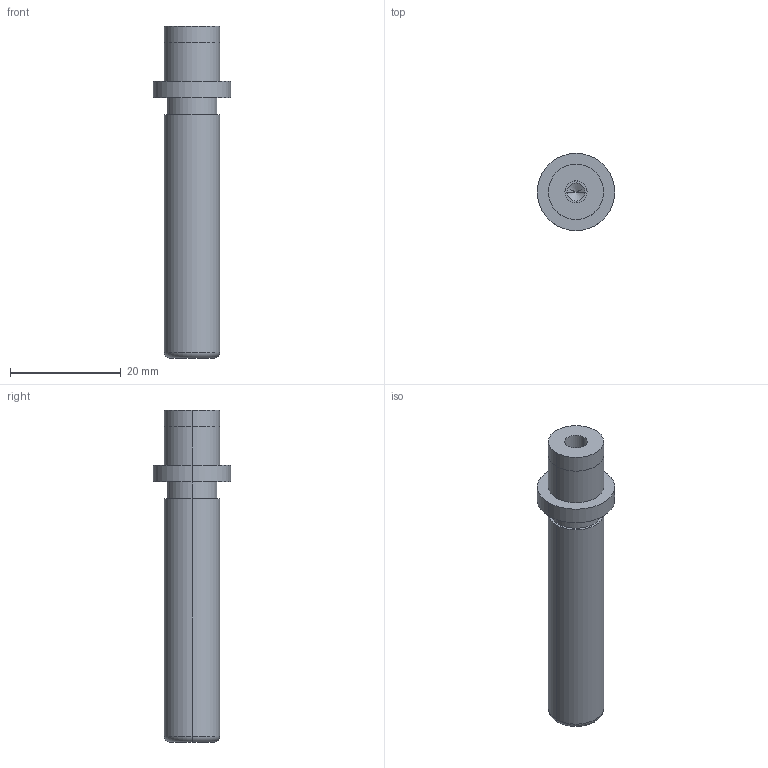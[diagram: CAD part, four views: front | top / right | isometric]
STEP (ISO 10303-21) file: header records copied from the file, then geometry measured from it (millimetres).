
FILE_DESCRIPTION(/* description */ (''),/* implementation_level */ '2;1');
FILE_NAME(/* name */ '3d_sgpw10-50_05292_r00.stp',/* time_stamp */ '2011-01-10T14:11:06+09:00',/* author */ ('MISUMI'),/* organization */ (''),/* preprocessor_version */ 'ST-DEVELOPER v11',/* originating_system */ 'UGS - NX 5.0',/* authorisation */ '');
FILE_SCHEMA (('CONFIG_CONTROL_DESIGN'));
Length unit declared in the file: millimetre
Products named in the file (1): 3d_sgpw10-50_05292_r00
Bounding box: 14 x 14 x 60 mm (x, y, z)
Volume: 4596.4 mm3; surface area: 2532.5 mm2
Topology: 1 solids, 1 shells, 31 faces, 64 edges, 38 vertices
Faces by surface type: cylinder 18, plane 7, cone 4, torus 2
Entity records: 890 total; most frequent: DIRECTION 162, CARTESIAN_POINT 130, ORIENTED_EDGE 120, AXIS2_PLACEMENT_3D 70, EDGE_CURVE 60, EDGE_LOOP 38, CIRCLE 38, VERTEX_POINT 38
